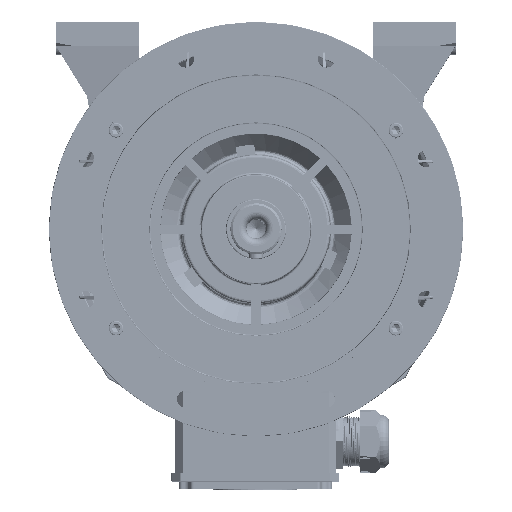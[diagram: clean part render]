
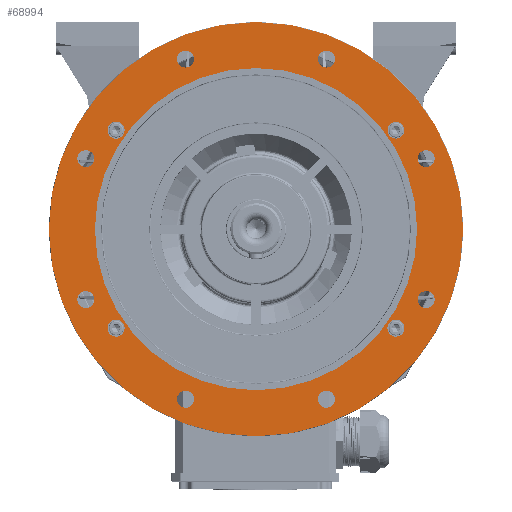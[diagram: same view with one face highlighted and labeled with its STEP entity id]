
A CAD part, top view. The second image highlights one B-rep face of the part: STEP entity #68994.
In plain terms, the highlighted planar face has unit normal (0, 0, 1).
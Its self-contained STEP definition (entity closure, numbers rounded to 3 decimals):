
#59700=PLANE('',#227458);
#68994=ADVANCED_FACE('',(#76624,#76625,#76626,#76627,#76628,#76629,#76630,
#76631,#76632,#76633,#76634,#76635,#76636,#76637),#59700,.F.);
#76624=FACE_BOUND('',#87474,.T.);
#76625=FACE_BOUND('',#87475,.T.);
#76626=FACE_BOUND('',#87476,.T.);
#76627=FACE_BOUND('',#87477,.T.);
#76628=FACE_BOUND('',#87478,.T.);
#76629=FACE_BOUND('',#87479,.T.);
#76630=FACE_BOUND('',#87480,.T.);
#76631=FACE_BOUND('',#87481,.T.);
#76632=FACE_BOUND('',#87482,.T.);
#76633=FACE_BOUND('',#87483,.T.);
#76634=FACE_BOUND('',#87484,.T.);
#76635=FACE_BOUND('',#87485,.T.);
#76636=FACE_BOUND('',#87486,.T.);
#76637=FACE_BOUND('',#87487,.T.);
#87474=EDGE_LOOP('',(#140416));
#87475=EDGE_LOOP('',(#140417));
#87476=EDGE_LOOP('',(#140418));
#87477=EDGE_LOOP('',(#140419));
#87478=EDGE_LOOP('',(#140420));
#87479=EDGE_LOOP('',(#140421));
#87480=EDGE_LOOP('',(#140422));
#87481=EDGE_LOOP('',(#140423));
#87482=EDGE_LOOP('',(#140424));
#87483=EDGE_LOOP('',(#140425));
#87484=EDGE_LOOP('',(#140426));
#87485=EDGE_LOOP('',(#140427));
#87486=EDGE_LOOP('',(#140428));
#87487=EDGE_LOOP('',(#140429));
#140416=ORIENTED_EDGE('',*,*,#200552,.T.);
#140417=ORIENTED_EDGE('',*,*,#201008,.T.);
#140418=ORIENTED_EDGE('',*,*,#201004,.F.);
#140419=ORIENTED_EDGE('',*,*,#200544,.T.);
#140420=ORIENTED_EDGE('',*,*,#201006,.F.);
#140421=ORIENTED_EDGE('',*,*,#200998,.T.);
#140422=ORIENTED_EDGE('',*,*,#201014,.T.);
#140423=ORIENTED_EDGE('',*,*,#200996,.T.);
#140424=ORIENTED_EDGE('',*,*,#201000,.F.);
#140425=ORIENTED_EDGE('',*,*,#200548,.T.);
#140426=ORIENTED_EDGE('',*,*,#201002,.F.);
#140427=ORIENTED_EDGE('',*,*,#201010,.T.);
#140428=ORIENTED_EDGE('',*,*,#200714,.F.);
#140429=ORIENTED_EDGE('',*,*,#201013,.F.);
#171447=VERTEX_POINT('',#428052);
#171451=VERTEX_POINT('',#428063);
#171455=VERTEX_POINT('',#428074);
#171568=VERTEX_POINT('',#429564);
#171762=VERTEX_POINT('',#431069);
#171764=VERTEX_POINT('',#431074);
#171766=VERTEX_POINT('',#431079);
#171768=VERTEX_POINT('',#431084);
#171770=VERTEX_POINT('',#431089);
#171772=VERTEX_POINT('',#431094);
#171774=VERTEX_POINT('',#431099);
#171776=VERTEX_POINT('',#431104);
#171779=VERTEX_POINT('',#431133);
#171780=VERTEX_POINT('',#431136);
#200544=EDGE_CURVE('',#171447,#171447,#212963,.T.);
#200548=EDGE_CURVE('',#171451,#171451,#212967,.T.);
#200552=EDGE_CURVE('',#171455,#171455,#212971,.T.);
#200714=EDGE_CURVE('',#171568,#171568,#213025,.T.);
#200996=EDGE_CURVE('',#171762,#171762,#213129,.T.);
#200998=EDGE_CURVE('',#171764,#171764,#213131,.T.);
#201000=EDGE_CURVE('',#171766,#171766,#213133,.T.);
#201002=EDGE_CURVE('',#171768,#171768,#213135,.T.);
#201004=EDGE_CURVE('',#171770,#171770,#213137,.T.);
#201006=EDGE_CURVE('',#171772,#171772,#213139,.T.);
#201008=EDGE_CURVE('',#171774,#171774,#213141,.T.);
#201010=EDGE_CURVE('',#171776,#171776,#213143,.T.);
#201013=EDGE_CURVE('',#171779,#171779,#213146,.T.);
#201014=EDGE_CURVE('',#171780,#171780,#213147,.T.);
#212963=CIRCLE('',#227118,9.25);
#212967=CIRCLE('',#227125,9.25);
#212971=CIRCLE('',#227132,9.25);
#213025=CIRCLE('',#227226,175.);
#213129=CIRCLE('',#227429,9.25);
#213131=CIRCLE('',#227432,9.25);
#213133=CIRCLE('',#227435,9.25);
#213135=CIRCLE('',#227438,9.25);
#213137=CIRCLE('',#227441,9.25);
#213139=CIRCLE('',#227444,9.25);
#213141=CIRCLE('',#227447,9.25);
#213143=CIRCLE('',#227450,9.25);
#213146=CIRCLE('',#227455,225.);
#213147=CIRCLE('',#227457,9.125);
#227118=AXIS2_PLACEMENT_3D('',#428051,#265416,#265417);
#227125=AXIS2_PLACEMENT_3D('',#428062,#265430,#265431);
#227132=AXIS2_PLACEMENT_3D('',#428073,#265444,#265445);
#227226=AXIS2_PLACEMENT_3D('',#429563,#265684,#265685);
#227429=AXIS2_PLACEMENT_3D('',#431068,#266230,#266231);
#227432=AXIS2_PLACEMENT_3D('',#431073,#266236,#266237);
#227435=AXIS2_PLACEMENT_3D('',#431078,#266242,#266243);
#227438=AXIS2_PLACEMENT_3D('',#431083,#266248,#266249);
#227441=AXIS2_PLACEMENT_3D('',#431088,#266254,#266255);
#227444=AXIS2_PLACEMENT_3D('',#431093,#266260,#266261);
#227447=AXIS2_PLACEMENT_3D('',#431098,#266266,#266267);
#227450=AXIS2_PLACEMENT_3D('',#431103,#266272,#266273);
#227455=AXIS2_PLACEMENT_3D('',#431132,#266282,#266283);
#227457=AXIS2_PLACEMENT_3D('',#431135,#266286,#266287);
#227458=AXIS2_PLACEMENT_3D('',#431137,#266288,#266289);
#265416=DIRECTION('',(0.,0.,-1.));
#265417=DIRECTION('',(0.,-1.,0.));
#265430=DIRECTION('',(0.,0.,-1.));
#265431=DIRECTION('',(0.,-1.,0.));
#265444=DIRECTION('',(0.,0.,-1.));
#265445=DIRECTION('',(0.,-1.,0.));
#265684=DIRECTION('',(0.,0.,1.));
#265685=DIRECTION('',(0.,-1.,0.));
#266230=DIRECTION('',(0.,0.,-1.));
#266231=DIRECTION('',(1.,0.,0.));
#266236=DIRECTION('',(0.,0.,-1.));
#266237=DIRECTION('',(1.,0.,0.));
#266242=DIRECTION('',(0.,0.,1.));
#266243=DIRECTION('',(1.,0.,0.));
#266248=DIRECTION('',(0.,0.,1.));
#266249=DIRECTION('',(1.,0.,0.));
#266254=DIRECTION('',(0.,0.,1.));
#266255=DIRECTION('',(1.,0.,0.));
#266260=DIRECTION('',(0.,0.,1.));
#266261=DIRECTION('',(1.,0.,0.));
#266266=DIRECTION('',(0.,0.,-1.));
#266267=DIRECTION('',(1.,0.,0.));
#266272=DIRECTION('',(0.,0.,-1.));
#266273=DIRECTION('',(1.,0.,0.));
#266282=DIRECTION('',(0.,0.,-1.));
#266283=DIRECTION('',(0.,-1.,0.));
#266286=DIRECTION('',(0.,0.,-1.));
#266287=DIRECTION('',(0.,-1.,0.));
#266288=DIRECTION('',(0.,0.,-1.));
#266289=DIRECTION('',(0.,-1.,0.));
#428051=CARTESIAN_POINT('',(-151.896,107.648,45.));
#428052=CARTESIAN_POINT('',(-151.896,98.398,45.));
#428062=CARTESIAN_POINT('',(152.104,-107.352,45.));
#428063=CARTESIAN_POINT('',(152.104,-116.602,45.));
#428073=CARTESIAN_POINT('',(-151.896,-107.352,45.));
#428074=CARTESIAN_POINT('',(-151.896,-116.602,45.));
#429563=CARTESIAN_POINT('',(0.104,0.148,45.));
#429564=CARTESIAN_POINT('',(0.104,-174.852,45.));
#431068=CARTESIAN_POINT('',(184.88,76.685,45.));
#431069=CARTESIAN_POINT('',(194.13,76.685,45.));
#431073=CARTESIAN_POINT('',(76.641,184.924,45.));
#431074=CARTESIAN_POINT('',(85.891,184.924,45.));
#431078=CARTESIAN_POINT('',(184.88,-76.388,45.));
#431079=CARTESIAN_POINT('',(194.13,-76.388,45.));
#431083=CARTESIAN_POINT('',(76.641,-184.627,45.));
#431084=CARTESIAN_POINT('',(85.891,-184.627,45.));
#431088=CARTESIAN_POINT('',(-184.672,76.685,45.));
#431089=CARTESIAN_POINT('',(-175.422,76.685,45.));
#431093=CARTESIAN_POINT('',(-76.433,184.924,45.));
#431094=CARTESIAN_POINT('',(-67.183,184.924,45.));
#431098=CARTESIAN_POINT('',(-184.672,-76.388,45.));
#431099=CARTESIAN_POINT('',(-175.422,-76.388,45.));
#431103=CARTESIAN_POINT('',(-76.433,-184.627,45.));
#431104=CARTESIAN_POINT('',(-67.183,-184.627,45.));
#431132=CARTESIAN_POINT('',(0.104,0.148,45.));
#431133=CARTESIAN_POINT('',(0.104,-224.852,45.));
#431135=CARTESIAN_POINT('',(152.104,107.648,45.));
#431136=CARTESIAN_POINT('',(152.104,98.523,45.));
#431137=CARTESIAN_POINT('',(245.165,247.748,45.));
